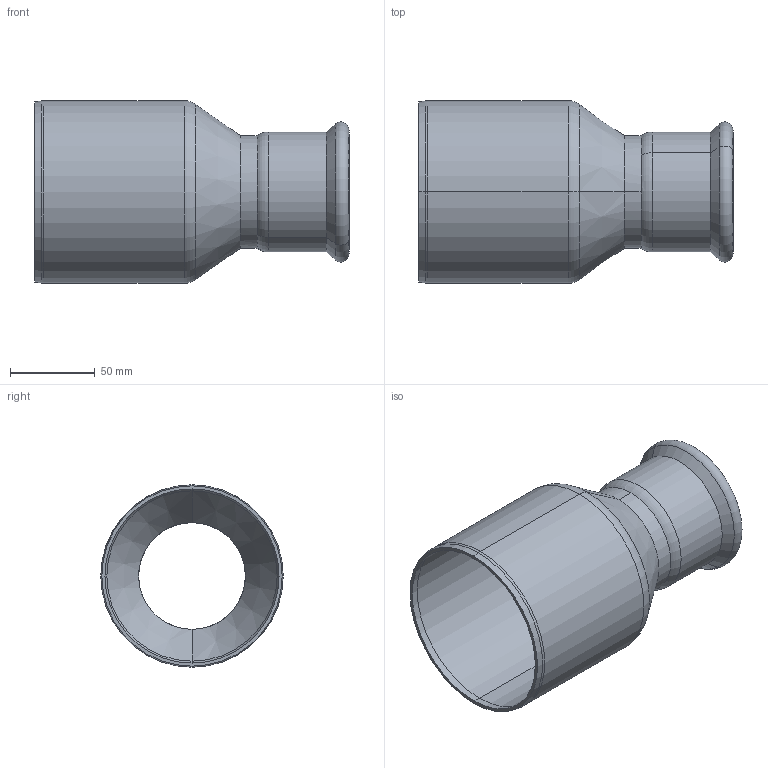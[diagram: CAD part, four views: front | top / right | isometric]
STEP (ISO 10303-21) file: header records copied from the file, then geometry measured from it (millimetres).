
FILE_DESCRIPTION(('CoCreate Modeling STEP Export'),'2;1');
FILE_NAME('C1407 108x67.stp','2014-10-23T15:50:11',(''),(''),'CoCreate Modeling STEP processor for AP214 (Solid Model)','CoCreate Modeling 17.00A 17-Jun-2010 (C) Parametric Technology GmbH','');
FILE_SCHEMA(('AUTOMOTIVE_DESIGN { 1 0 10303 214 1 1 1 1 }'));
Length unit declared in the file: millimetre
Products named in the file (2): Reducer_108x67mm
Assembly tree (1 placements, depth 2):
  Reducer_108x67mm
    Reducer_108x67mm
Bounding box: 186.07 x 108 x 108 mm (x, y, z)
Volume: 109606.3 mm3; surface area: 111540.5 mm2
Topology: 1 solids, 1 shells, 49 faces, 112 edges, 66 vertices
Faces by surface type: cone 18, cylinder 16, torus 12, plane 3
Entity records: 1130 total; most frequent: ORIENTED_EDGE 224, CARTESIAN_POINT 166, DIRECTION 166, EDGE_CURVE 112, AXIS2_PLACEMENT_3D 66, VERTEX_POINT 66, EDGE_LOOP 52, FACE_OUTER_BOUND 49
